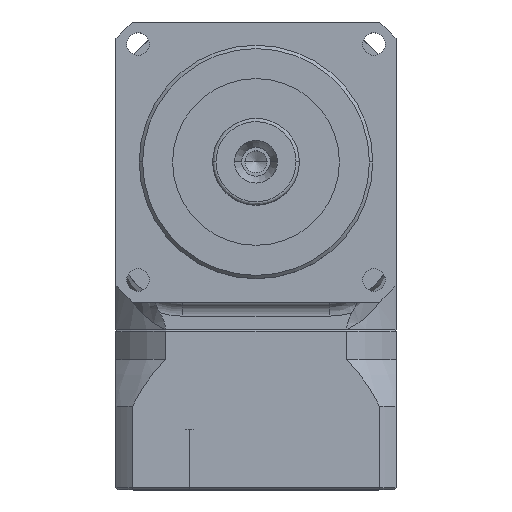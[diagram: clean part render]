
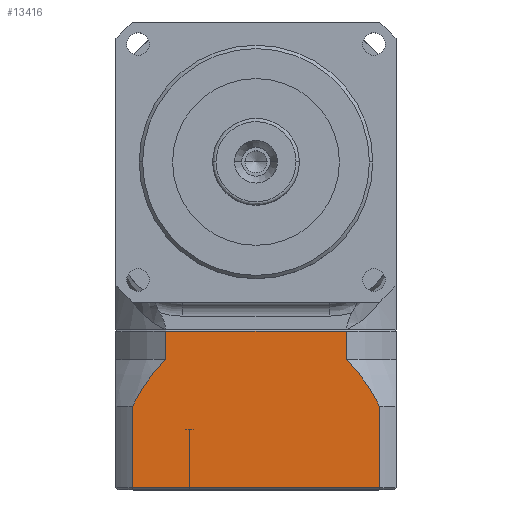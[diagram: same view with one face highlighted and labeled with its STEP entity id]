
A CAD part, top view. The second image highlights one B-rep face of the part: STEP entity #13416.
In plain terms, the highlighted planar face has unit normal (0, 0, 1).
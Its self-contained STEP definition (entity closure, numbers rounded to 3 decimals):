
#152 = CARTESIAN_POINT ( 'NONE',  ( 18.52, 12.5, 21. ) ) ;
#528 = ORIENTED_EDGE ( 'NONE', *, *, #5539, .T. ) ;
#783 = CARTESIAN_POINT ( 'NONE',  ( -17.163, 15.042, 21. ) ) ;
#1012 = VERTEX_POINT ( 'NONE', #17831 ) ;
#1182 = VECTOR ( 'NONE', #9661, 1000. ) ;
#1294 = DIRECTION ( 'NONE',  ( 0., -1., 0. ) ) ;
#1511 = CARTESIAN_POINT ( 'NONE',  ( 17.889, 13.805, 21. ) ) ;
#1795 = DIRECTION ( 'NONE',  ( -1., 0., 0. ) ) ;
#1807 = CARTESIAN_POINT ( 'NONE',  ( -13.565, 19.5, 21. ) ) ;
#1880 = CARTESIAN_POINT ( 'NONE',  ( -14.595, 18.478, 21. ) ) ;
#3057 = VECTOR ( 'NONE', #6253, 1000. ) ;
#3086 = CARTESIAN_POINT ( 'NONE',  ( 13.565, 19.5, 21. ) ) ;
#3272 = EDGE_CURVE ( 'NONE', #18535, #19632, #11083, .T. ) ;
#3336 = CARTESIAN_POINT ( 'NONE',  ( -18.52, 0.3, 21. ) ) ;
#4033 = ORIENTED_EDGE ( 'NONE', *, *, #12159, .F. ) ;
#4113 = CARTESIAN_POINT ( 'NONE',  ( 21., 0., 21. ) ) ;
#4527 = EDGE_CURVE ( 'NONE', #16141, #11079, #7321, .T. ) ;
#4597 = DIRECTION ( 'NONE',  ( -1., 0., 0. ) ) ;
#5104 = FACE_OUTER_BOUND ( 'NONE', #18409, .T. ) ;
#5117 = CARTESIAN_POINT ( 'NONE',  ( 21., 0.3, 21. ) ) ;
#5390 = LINE ( 'NONE', #20072, #6859 ) ;
#5493 = VERTEX_POINT ( 'NONE', #8060 ) ;
#5539 = EDGE_CURVE ( 'NONE', #5493, #1012, #18047, .T. ) ;
#5771 = EDGE_CURVE ( 'NONE', #11079, #14116, #9737, .T. ) ;
#5901 = DIRECTION ( 'NONE',  ( 0., -1., 0. ) ) ;
#6171 = CARTESIAN_POINT ( 'NONE',  ( 21., 23.7, 21. ) ) ;
#6253 = DIRECTION ( 'NONE',  ( 0., -1., 0. ) ) ;
#6859 = VECTOR ( 'NONE', #1294, 1000. ) ;
#7321 = LINE ( 'NONE', #9524, #1182 ) ;
#7673 = CARTESIAN_POINT ( 'NONE',  ( 13.565, 23.7, 21. ) ) ;
#7761 = CARTESIAN_POINT ( 'NONE',  ( -18.52, 0., 21. ) ) ;
#8060 = CARTESIAN_POINT ( 'NONE',  ( -13.565, 19.5, 21. ) ) ;
#8212 = LINE ( 'NONE', #7761, #3057 ) ;
#8724 = DIRECTION ( 'NONE',  ( 1., 0., 0. ) ) ;
#8757 = CARTESIAN_POINT ( 'NONE',  ( -15.515, 17.378, 21. ) ) ;
#9070 = CARTESIAN_POINT ( 'NONE',  ( 18.52, 12.5, 21. ) ) ;
#9189 = ORIENTED_EDGE ( 'NONE', *, *, #16574, .T. ) ;
#9317 = AXIS2_PLACEMENT_3D ( 'NONE', #4113, #19808, #8724 ) ;
#9524 = CARTESIAN_POINT ( 'NONE',  ( 13.565, 0., 21. ) ) ;
#9661 = DIRECTION ( 'NONE',  ( 0., 1., 0. ) ) ;
#9737 = LINE ( 'NONE', #6171, #13693 ) ;
#10231 = ORIENTED_EDGE ( 'NONE', *, *, #4527, .T. ) ;
#10798 = CARTESIAN_POINT ( 'NONE',  ( 17.163, 15.042, 21. ) ) ;
#11014 = CARTESIAN_POINT ( 'NONE',  ( 18.52, 0.3, 21. ) ) ;
#11079 = VERTEX_POINT ( 'NONE', #7673 ) ;
#11083 = LINE ( 'NONE', #5117, #18493 ) ;
#11784 = CARTESIAN_POINT ( 'NONE',  ( -17.889, 13.805, 21. ) ) ;
#12101 = EDGE_CURVE ( 'NONE', #14116, #5493, #18946, .T. ) ;
#12159 = EDGE_CURVE ( 'NONE', #13094, #18535, #5390, .T. ) ;
#13094 = VERTEX_POINT ( 'NONE', #152 ) ;
#13331 = ORIENTED_EDGE ( 'NONE', *, *, #5771, .T. ) ;
#13416 = ADVANCED_FACE ( 'NONE', ( #5104 ), #13964, .T. ) ;
#13676 = ORIENTED_EDGE ( 'NONE', *, *, #12101, .T. ) ;
#13693 = VECTOR ( 'NONE', #4597, 1000. ) ;
#13964 = PLANE ( 'NONE',  #9317 ) ;
#13965 = ORIENTED_EDGE ( 'NONE', *, *, #15254, .T. ) ;
#14053 = CARTESIAN_POINT ( 'NONE',  ( 13.565, 19.5, 21. ) ) ;
#14116 = VERTEX_POINT ( 'NONE', #18739 ) ;
#15092 = CARTESIAN_POINT ( 'NONE',  ( -18.52, 12.5, 21. ) ) ;
#15254 = EDGE_CURVE ( 'NONE', #1012, #19632, #8212, .T. ) ;
#15521 = CARTESIAN_POINT ( 'NONE',  ( 15.515, 17.378, 21. ) ) ;
#15648 = CARTESIAN_POINT ( 'NONE',  ( 14.595, 18.478, 21. ) ) ;
#15707 = B_SPLINE_CURVE_WITH_KNOTS ( 'NONE', 3,
 ( #9070, #1511, #10798, #15521, #15648, #3086 ),
 .UNSPECIFIED., .F., .F.,
 ( 4, 2, 4 ),
 ( 0., 0.004, 0.009 ),
 .UNSPECIFIED. ) ;
#15976 = ORIENTED_EDGE ( 'NONE', *, *, #3272, .F. ) ;
#16141 = VERTEX_POINT ( 'NONE', #14053 ) ;
#16210 = VECTOR ( 'NONE', #5901, 1000. ) ;
#16574 = EDGE_CURVE ( 'NONE', #13094, #16141, #15707, .T. ) ;
#17831 = CARTESIAN_POINT ( 'NONE',  ( -18.52, 12.5, 21. ) ) ;
#18047 = B_SPLINE_CURVE_WITH_KNOTS ( 'NONE', 3,
 ( #1807, #1880, #8757, #783, #11784, #15092 ),
 .UNSPECIFIED., .F., .F.,
 ( 4, 2, 4 ),
 ( 0., 0.004, 0.009 ),
 .UNSPECIFIED. ) ;
#18362 = CARTESIAN_POINT ( 'NONE',  ( -13.565, 0., 21. ) ) ;
#18409 = EDGE_LOOP ( 'NONE', ( #4033, #9189, #10231, #13331, #13676, #528, #13965, #15976 ) ) ;
#18493 = VECTOR ( 'NONE', #1795, 1000. ) ;
#18535 = VERTEX_POINT ( 'NONE', #11014 ) ;
#18739 = CARTESIAN_POINT ( 'NONE',  ( -13.565, 23.7, 21. ) ) ;
#18946 = LINE ( 'NONE', #18362, #16210 ) ;
#19632 = VERTEX_POINT ( 'NONE', #3336 ) ;
#19808 = DIRECTION ( 'NONE',  ( 0., 0., 1. ) ) ;
#20072 = CARTESIAN_POINT ( 'NONE',  ( 18.52, 23.735, 21. ) ) ;
